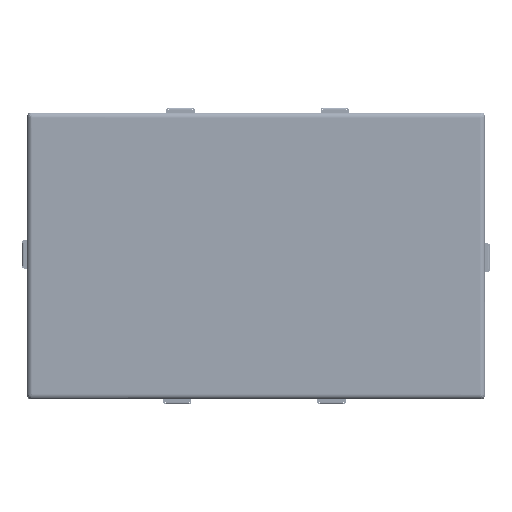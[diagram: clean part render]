
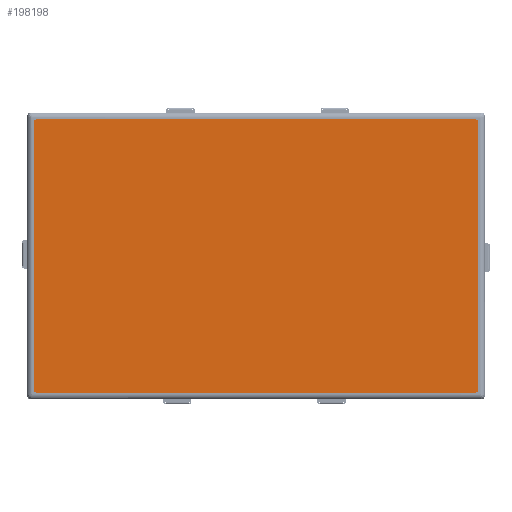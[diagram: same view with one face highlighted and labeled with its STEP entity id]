
A CAD part, top view. The second image highlights one B-rep face of the part: STEP entity #198198.
In plain terms, the highlighted planar face has unit normal (0, 0, 1).
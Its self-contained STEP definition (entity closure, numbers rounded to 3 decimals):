
#5784=CIRCLE('',#209176,2.);
#5785=CIRCLE('',#209177,2.);
#5786=CIRCLE('',#209178,2.);
#5787=CIRCLE('',#209179,2.);
#11448=FACE_OUTER_BOUND('',#21940,.T.);
#21940=EDGE_LOOP('',(#135017,#135018,#135019,#135020,#135021,#135022,#135023,
#135024));
#34720=LINE('',#284714,#58362);
#34724=LINE('',#284721,#58366);
#34727=LINE('',#284727,#58369);
#34729=LINE('',#284732,#58371);
#58362=VECTOR('',#228873,1000.);
#58366=VECTOR('',#228879,1000.);
#58369=VECTOR('',#228884,1000.);
#58371=VECTOR('',#228888,1000.);
#81466=VERTEX_POINT('',#284712);
#81467=VERTEX_POINT('',#284713);
#81468=VERTEX_POINT('',#284718);
#81469=VERTEX_POINT('',#284720);
#81470=VERTEX_POINT('',#284724);
#81471=VERTEX_POINT('',#284726);
#81472=VERTEX_POINT('',#284730);
#81473=VERTEX_POINT('',#284731);
#102000=EDGE_CURVE('',#81466,#81467,#34720,.T.);
#102004=EDGE_CURVE('',#81469,#81468,#34724,.T.);
#102007=EDGE_CURVE('',#81471,#81470,#34727,.T.);
#102009=EDGE_CURVE('',#81472,#81473,#34729,.T.);
#102012=EDGE_CURVE('',#81470,#81472,#5784,.T.);
#102013=EDGE_CURVE('',#81473,#81466,#5785,.T.);
#102014=EDGE_CURVE('',#81467,#81469,#5786,.T.);
#102015=EDGE_CURVE('',#81468,#81471,#5787,.T.);
#135017=ORIENTED_EDGE('',*,*,#102007,.T.);
#135018=ORIENTED_EDGE('',*,*,#102012,.T.);
#135019=ORIENTED_EDGE('',*,*,#102009,.T.);
#135020=ORIENTED_EDGE('',*,*,#102013,.T.);
#135021=ORIENTED_EDGE('',*,*,#102000,.T.);
#135022=ORIENTED_EDGE('',*,*,#102014,.T.);
#135023=ORIENTED_EDGE('',*,*,#102004,.T.);
#135024=ORIENTED_EDGE('',*,*,#102015,.T.);
#190405=PLANE('',#209175);
#198198=ADVANCED_FACE('',(#11448),#190405,.T.);
#209175=AXIS2_PLACEMENT_3D('',#284735,#228891,#228892);
#209176=AXIS2_PLACEMENT_3D('',#284736,#228893,#228894);
#209177=AXIS2_PLACEMENT_3D('',#284737,#228895,#228896);
#209178=AXIS2_PLACEMENT_3D('',#284738,#228897,#228898);
#209179=AXIS2_PLACEMENT_3D('',#284739,#228899,#228900);
#228873=DIRECTION('',(0.,1.,0.));
#228879=DIRECTION('',(-1.,0.,0.));
#228884=DIRECTION('',(0.,-1.,0.));
#228888=DIRECTION('',(1.,0.,0.));
#228891=DIRECTION('center_axis',(0.,0.,
1.));
#228892=DIRECTION('ref_axis',(-1.,0.,0.));
#228893=DIRECTION('center_axis',(0.,0.,
1.));
#228894=DIRECTION('ref_axis',(-1.,0.,0.));
#228895=DIRECTION('center_axis',(0.,0.,
1.));
#228896=DIRECTION('ref_axis',(-1.,0.,0.));
#228897=DIRECTION('center_axis',(0.,0.,
1.));
#228898=DIRECTION('ref_axis',(-1.,0.,0.));
#228899=DIRECTION('center_axis',(0.,0.,
1.));
#228900=DIRECTION('ref_axis',(-1.,0.,0.));
#284712=CARTESIAN_POINT('',(282.159,-63.048,-85.875));
#284713=CARTESIAN_POINT('',(282.159,173.952,-85.875));
#284714=CARTESIAN_POINT('',(282.159,-65.048,-85.875));
#284718=CARTESIAN_POINT('',(-107.841,175.952,-85.875));
#284720=CARTESIAN_POINT('',(280.159,175.952,-85.875));
#284721=CARTESIAN_POINT('',(282.159,175.952,-85.875));
#284724=CARTESIAN_POINT('',(-109.841,-63.048,-85.875));
#284726=CARTESIAN_POINT('',(-109.841,173.952,-85.875));
#284727=CARTESIAN_POINT('',(-109.841,-65.048,-85.875));
#284730=CARTESIAN_POINT('',(-107.841,-65.048,-85.875));
#284731=CARTESIAN_POINT('',(280.159,-65.048,-85.875));
#284732=CARTESIAN_POINT('',(282.159,-65.048,-85.875));
#284735=CARTESIAN_POINT('Origin',(86.159,55.452,-85.875));
#284736=CARTESIAN_POINT('Origin',(-107.841,-63.048,-85.875));
#284737=CARTESIAN_POINT('Origin',(280.159,-63.048,-85.875));
#284738=CARTESIAN_POINT('Origin',(280.159,173.952,-85.875));
#284739=CARTESIAN_POINT('Origin',(-107.841,173.952,-85.875));
